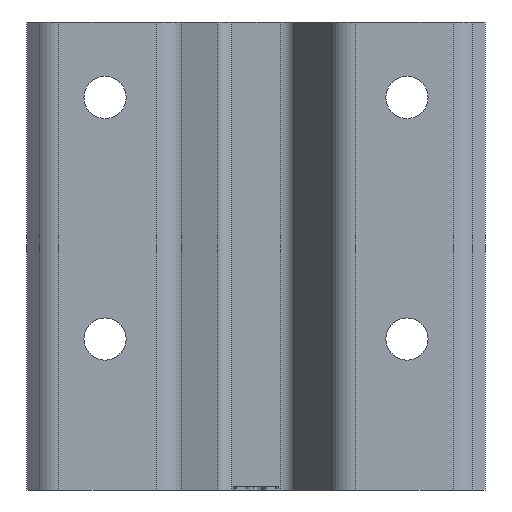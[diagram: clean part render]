
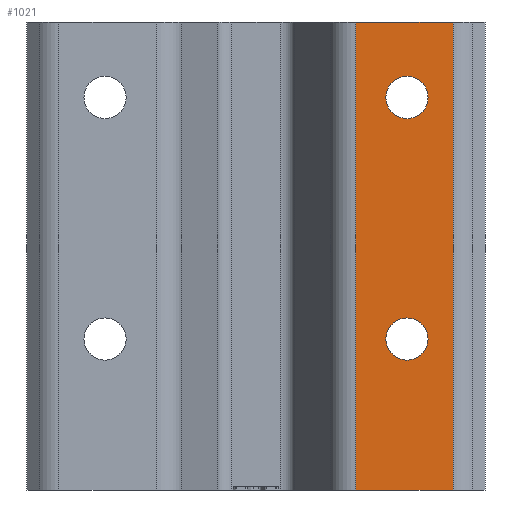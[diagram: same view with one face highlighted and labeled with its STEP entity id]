
A CAD part, front view. The second image highlights one B-rep face of the part: STEP entity #1021.
In plain terms, the highlighted planar face has unit normal (0, -1, 0).
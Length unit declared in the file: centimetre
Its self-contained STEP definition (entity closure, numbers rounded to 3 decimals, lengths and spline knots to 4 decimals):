
#26=FACE_BOUND('',#132,.T.);
#27=FACE_BOUND('',#133,.T.);
#41=PLANE('',#1089);
#75=FACE_OUTER_BOUND('',#131,.T.);
#131=EDGE_LOOP('',(#726,#727,#728,#729));
#132=EDGE_LOOP('',(#730));
#133=EDGE_LOOP('',(#731));
#205=LINE('',#1546,#307);
#206=LINE('',#1550,#308);
#207=LINE('',#1552,#309);
#208=LINE('',#1553,#310);
#307=VECTOR('',#1232,1.);
#308=VECTOR('',#1237,1.);
#309=VECTOR('',#1238,1.);
#310=VECTOR('',#1239,1.);
#400=CIRCLE('',#1090,7.);
#401=CIRCLE('',#1091,7.);
#458=VERTEX_POINT('',#1543);
#459=VERTEX_POINT('',#1545);
#460=VERTEX_POINT('',#1549);
#461=VERTEX_POINT('',#1551);
#462=VERTEX_POINT('',#1554);
#463=VERTEX_POINT('',#1556);
#566=EDGE_CURVE('',#459,#458,#205,.T.);
#568=EDGE_CURVE('',#458,#460,#206,.T.);
#569=EDGE_CURVE('',#461,#460,#207,.T.);
#570=EDGE_CURVE('',#461,#459,#208,.T.);
#571=EDGE_CURVE('',#462,#462,#400,.T.);
#572=EDGE_CURVE('',#463,#463,#401,.T.);
#726=ORIENTED_EDGE('',*,*,#568,.T.);
#727=ORIENTED_EDGE('',*,*,#569,.F.);
#728=ORIENTED_EDGE('',*,*,#570,.T.);
#729=ORIENTED_EDGE('',*,*,#566,.T.);
#730=ORIENTED_EDGE('',*,*,#571,.T.);
#731=ORIENTED_EDGE('',*,*,#572,.T.);
#1021=ADVANCED_FACE('',(#75,#26,#27),#41,.T.);
#1089=AXIS2_PLACEMENT_3D('',#1548,#1235,#1236);
#1090=AXIS2_PLACEMENT_3D('',#1555,#1240,#1241);
#1091=AXIS2_PLACEMENT_3D('',#1557,#1242,#1243);
#1232=DIRECTION('',(0.,0.,1.));
#1235=DIRECTION('center_axis',(0.,-1.,0.));
#1236=DIRECTION('ref_axis',(1.,0.,0.));
#1237=DIRECTION('',(-1.,0.,0.));
#1238=DIRECTION('',(0.,0.,1.));
#1239=DIRECTION('',(1.,0.,0.));
#1240=DIRECTION('center_axis',(0.,1.,0.));
#1241=DIRECTION('ref_axis',(1.,0.,0.));
#1242=DIRECTION('center_axis',(0.,1.,0.));
#1243=DIRECTION('ref_axis',(1.,0.,0.));
#1543=CARTESIAN_POINT('',(65.2521,0.,155.));
#1545=CARTESIAN_POINT('',(65.2521,0.,0.));
#1546=CARTESIAN_POINT('',(65.2521,0.,0.));
#1548=CARTESIAN_POINT('Origin',(50.,0.,47.));
#1549=CARTESIAN_POINT('',(33.1078,0.,155.));
#1550=CARTESIAN_POINT('',(33.1078,0.,155.));
#1551=CARTESIAN_POINT('',(33.1078,0.,0.));
#1552=CARTESIAN_POINT('',(33.1078,0.,0.));
#1553=CARTESIAN_POINT('',(33.1078,0.,0.));
#1554=CARTESIAN_POINT('',(43.,0.,50.));
#1555=CARTESIAN_POINT('Origin',(50.,0.,50.));
#1556=CARTESIAN_POINT('',(43.,0.,130.));
#1557=CARTESIAN_POINT('Origin',(50.,0.,130.));
